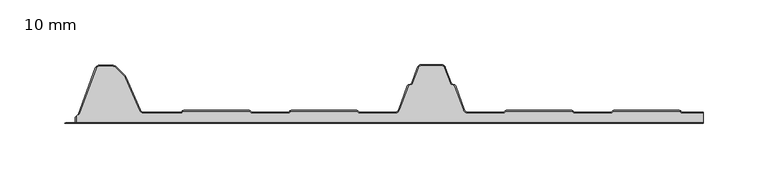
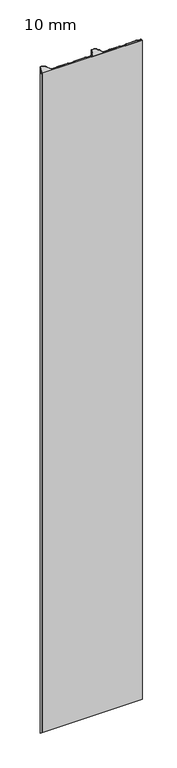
"""IFC4 building model written with IfcOpenShell, lengths in millimetres: plate geometry, HIANSA PANEL - H20.F01.009-PANELES DE CUBIERTA SIN TAPAJUNTA - EASY ALU 5GR - Panel de Muro Cortina : 10 mm."""

from ifc_helpers import new_model, si_unit, point, frame_2d, origin, origin_with_axes, place, context, project, spatial, polyline, circle_curve, trimmed, segment, composite_curve, outline, extrude, source, transform, mapped, element, save


def plate_10_mm_17697db5(model_context):
    return source(origin(), model_context, "Body", "SweptSolid", [
        extrude(outline(polyline([(-236.0046623, 0.4999588), (-236.479984, 1.3232401), (-236.479984, 4.6399643), (-236.0046623, 5.4632456), (-236.0046623, 0.4999588)])), origin_with_axes(), (0.0, 0.0, 1.0), 3390.8509027),
        extrude(outline(polyline([(-244.8927644, 0.0), (-244.026739, 0.5), (249.9999998, 0.5), (249.9999998, 0.0), (-244.8927644, 0.0)])), origin_with_axes(), (0.0, 0.0, 1.0), 3390.8509027),
        extrude(outline(composite_curve([segment(polyline([(-234.1370886, 6.794297), (-220.9862023, 42.9260604)]), True, "CONTINUOUS"), segment(trimmed(circle_curve(frame_2d((-218.1671244, 41.9)), 3.0), [point((-220.9862023, 42.9260604))], [point((-218.1671244, 44.9))], False, "CARTESIAN"), True, "CONTINUOUS"), segment(polyline([(-218.1671244, 44.9), (-208.1823564, 44.9)]), True, "CONTINUOUS"), segment(trimmed(circle_curve(frame_2d((-208.1823564, 39.9)), 5.0), [point((-208.1823564, 44.9))], [point((-204.6468225, 43.4355339))], False, "CARTESIAN"), True, "CONTINUOUS"), segment(polyline([(-204.6468225, 43.4355339), (-197.9600416, 36.7487529)]), True, "CONTINUOUS"), segment(trimmed(circle_curve(frame_2d((-201.4955755, 33.213219)), 5.0), [point((-197.9600416, 36.7487529))], [point((-196.9079185, 35.2015359))], False, "CARTESIAN"), True, "CONTINUOUS"), segment(polyline([(-196.9079185, 35.2015359), (-186.1184879, 10.3070099)]), True, "CONTINUOUS"), segment(trimmed(circle_curve(frame_2d((-183.3658937, 11.5)), 3.0), [point((-186.1184879, 10.3070099))], [point((-183.3658937, 8.5))], True, "CARTESIAN"), True, "CONTINUOUS"), segment(polyline([(-183.3658937, 8.5), (-155.5009808, 8.5)]), True, "CONTINUOUS"), segment(trimmed(circle_curve(frame_2d((-155.5009808, 10.5)), 2.0), [point((-155.5009808, 8.5))], [point((-154.270989, 8.9229394))], True, "CARTESIAN"), True, "CONTINUOUS"), segment(polyline([(-154.270989, 8.9229394), (-153.6196411, 9.5404749)]), True, "CONTINUOUS"), segment(trimmed(circle_curve(frame_2d((-152.3441266, 8.0)), 2.0), [point((-153.6196411, 9.5404749))], [point((-152.3441266, 10.0))], False, "CARTESIAN"), True, "CONTINUOUS"), segment(polyline([(-152.3441266, 10.0), (-102.3428932, 10.0)]), True, "CONTINUOUS"), segment(trimmed(circle_curve(frame_2d((-102.3428932, 8.0)), 2.0), [point((-102.3428932, 10.0))], [point((-101.0673787, 9.5404749))], False, "CARTESIAN"), True, "CONTINUOUS"), segment(polyline([(-101.0673787, 9.5404749), (-100.4160308, 8.9229394)]), True, "CONTINUOUS"), segment(trimmed(circle_curve(frame_2d((-99.1860389, 10.5)), 2.0), [point((-100.4160308, 8.9229394))], [point((-99.1860389, 8.5))], True, "CARTESIAN"), True, "CONTINUOUS"), segment(polyline([(-99.1860389, 8.5), (-72.1676475, 8.5)]), True, "CONTINUOUS"), segment(trimmed(circle_curve(frame_2d((-72.1676475, 10.5)), 2.0), [point((-72.1676475, 8.5))], [point((-70.9376556, 8.9229394))], True, "CARTESIAN"), True, "CONTINUOUS"), segment(polyline([(-70.9376556, 8.9229394), (-70.2863077, 9.5404749)]), True, "CONTINUOUS"), segment(trimmed(circle_curve(frame_2d((-69.0107932, 8.0)), 2.0), [point((-70.2863077, 9.5404749))], [point((-69.0107932, 10.0))], False, "CARTESIAN"), True, "CONTINUOUS"), segment(polyline([(-69.0107932, 10.0), (-19.0095599, 10.0)]), True, "CONTINUOUS"), segment(trimmed(circle_curve(frame_2d((-19.0095599, 8.0)), 2.0), [point((-19.0095599, 10.0))], [point((-17.7340454, 9.5404749))], False, "CARTESIAN"), True, "CONTINUOUS"), segment(polyline([(-17.7340454, 9.5404749), (-17.0826975, 8.9229394)]), True, "CONTINUOUS"), segment(trimmed(circle_curve(frame_2d((-15.8527056, 10.5)), 2.0), [point((-17.0826975, 8.9229394))], [point((-15.8527056, 8.5))], True, "CARTESIAN"), True, "CONTINUOUS"), segment(polyline([(-15.8527056, 8.5), (11.1656855, 8.5)]), True, "CONTINUOUS"), segment(trimmed(circle_curve(frame_2d((11.1656855, 11.5)), 3.0), [point((11.1656855, 8.5))], [point((13.9847633, 10.4739395))], True, "CARTESIAN"), True, "CONTINUOUS"), segment(polyline([(13.9847633, 10.4739395), (20.7029921, 28.9321192)]), True, "CONTINUOUS"), segment(trimmed(circle_curve(frame_2d((22.2065002, 28.3848869)), 1.6), [point((20.7029921, 28.9321192))], [point((21.659268, 29.8883951))], False, "CARTESIAN"), True, "CONTINUOUS"), segment(polyline([(21.659268, 29.8883951), (23.5053318, 30.5603074)]), True, "CONTINUOUS"), segment(trimmed(circle_curve(frame_2d((23.1633117, 31.5)), 1.0), [point((23.5053318, 30.5603074))], [point((24.1030043, 31.1579799))], True, "CARTESIAN"), True, "CONTINUOUS"), segment(polyline([(24.1030043, 31.1579799), (28.4609265, 43.1312725)]), True, "CONTINUOUS"), segment(trimmed(circle_curve(frame_2d((31.8438199, 41.9)), 3.6), [point((28.4609265, 43.1312725))], [point((31.8438199, 45.5))], False, "CARTESIAN"), True, "CONTINUOUS"), segment(polyline([(31.8438199, 45.5), (46.8024936, 45.5)]), True, "CONTINUOUS"), segment(trimmed(circle_curve(frame_2d((46.8024936, 41.9)), 3.6), [point((46.8024936, 45.5))], [point((50.1853871, 43.1312725))], False, "CARTESIAN"), True, "CONTINUOUS"), segment(polyline([(50.1853871, 43.1312725), (54.5433092, 31.1579799)]), True, "CONTINUOUS"), segment(trimmed(circle_curve(frame_2d((55.4830018, 31.5)), 1.0), [point((54.5433092, 31.1579799))], [point((55.1409817, 30.5603074))], True, "CARTESIAN"), True, "CONTINUOUS"), segment(polyline([(55.1409817, 30.5603074), (56.9870455, 29.8883951)]), True, "CONTINUOUS"), segment(trimmed(circle_curve(frame_2d((56.4398133, 28.3848869)), 1.6), [point((56.9870455, 29.8883951))], [point((57.9433215, 28.9321192))], False, "CARTESIAN"), True, "CONTINUOUS"), segment(polyline([(57.9433215, 28.9321192), (64.6615502, 10.4739395)]), True, "CONTINUOUS"), segment(trimmed(circle_curve(frame_2d((67.4806281, 11.5)), 3.0), [point((64.6615502, 10.4739395))], [point((67.4806281, 8.5))], True, "CARTESIAN"), True, "CONTINUOUS"), segment(polyline([(67.4806281, 8.5), (94.4990192, 8.5)]), True, "CONTINUOUS"), segment(trimmed(circle_curve(frame_2d((94.4990192, 10.5)), 2.0), [point((94.4990192, 8.5))], [point((95.729011, 8.9229394))], True, "CARTESIAN"), True, "CONTINUOUS"), segment(polyline([(95.729011, 8.9229394), (96.3803589, 9.5404749)]), True, "CONTINUOUS"), segment(trimmed(circle_curve(frame_2d((97.6558734, 8.0)), 2.0), [point((96.3803589, 9.5404749))], [point((97.6558734, 10.0))], False, "CARTESIAN"), True, "CONTINUOUS"), segment(polyline([(97.6558734, 10.0), (147.6571068, 10.0)]), True, "CONTINUOUS"), segment(trimmed(circle_curve(frame_2d((147.6571068, 8.0)), 2.0), [point((147.6571068, 10.0))], [point((148.9326213, 9.5404749))], False, "CARTESIAN"), True, "CONTINUOUS"), segment(polyline([(148.9326213, 9.5404749), (149.5839692, 8.9229394)]), True, "CONTINUOUS"), segment(trimmed(circle_curve(frame_2d((150.8139611, 10.5)), 2.0), [point((149.5839692, 8.9229394))], [point((150.8139611, 8.5))], True, "CARTESIAN"), True, "CONTINUOUS"), segment(polyline([(150.8139611, 8.5), (177.8323525, 8.5)]), True, "CONTINUOUS"), segment(trimmed(circle_curve(frame_2d((177.8323525, 10.5)), 2.0), [point((177.8323525, 8.5))], [point((179.0623444, 8.9229394))], True, "CARTESIAN"), True, "CONTINUOUS"), segment(polyline([(179.0623444, 8.9229394), (179.7136923, 9.5404749)]), True, "CONTINUOUS"), segment(trimmed(circle_curve(frame_2d((180.9892068, 8.0)), 2.0), [point((179.7136923, 9.5404749))], [point((180.9892068, 10.0))], False, "CARTESIAN"), True, "CONTINUOUS"), segment(polyline([(180.9892068, 10.0), (230.9904401, 10.0)]), True, "CONTINUOUS"), segment(trimmed(circle_curve(frame_2d((230.9904401, 8.0)), 2.0), [point((230.9904401, 10.0))], [point((232.2659546, 9.5404749))], False, "CARTESIAN"), True, "CONTINUOUS"), segment(polyline([(232.2659546, 9.5404749), (232.9173025, 8.9229394)]), True, "CONTINUOUS"), segment(trimmed(circle_curve(frame_2d((234.1472944, 10.5)), 2.0), [point((232.9173025, 8.9229394))], [point((234.1472944, 8.5))], True, "CARTESIAN"), True, "CONTINUOUS"), segment(polyline([(234.1472944, 8.5), (249.9999998, 8.5), (249.9999998, 8.0), (234.1472944, 8.0)]), True, "CONTINUOUS"), segment(trimmed(circle_curve(frame_2d((234.1472944, 10.5)), 2.5), [point((234.1472944, 8.0))], [point((232.5898138, 8.54443))], False, "CARTESIAN"), True, "CONTINUOUS"), segment(polyline([(232.5898138, 8.54443), (231.9350126, 9.1652394)]), True, "CONTINUOUS"), segment(trimmed(circle_curve(frame_2d((230.9904401, 8.0)), 1.5), [point((231.9350126, 9.1652394))], [point((230.9904401, 9.5))], True, "CARTESIAN"), True, "CONTINUOUS"), segment(polyline([(230.9904401, 9.5), (180.9892068, 9.5)]), True, "CONTINUOUS"), segment(trimmed(circle_curve(frame_2d((180.9892068, 8.0)), 1.5), [point((180.9892068, 9.5))], [point((180.0446343, 9.1652394))], True, "CARTESIAN"), True, "CONTINUOUS"), segment(polyline([(180.0446343, 9.1652394), (179.3898331, 8.54443)]), True, "CONTINUOUS"), segment(trimmed(circle_curve(frame_2d((177.8323525, 10.5)), 2.5), [point((179.3898331, 8.54443))], [point((177.8323525, 8.0))], False, "CARTESIAN"), True, "CONTINUOUS"), segment(polyline([(177.8323525, 8.0), (150.8139611, 8.0)]), True, "CONTINUOUS"), segment(trimmed(circle_curve(frame_2d((150.8139611, 10.5)), 2.5), [point((150.8139611, 8.0))], [point((149.2564804, 8.54443))], False, "CARTESIAN"), True, "CONTINUOUS"), segment(polyline([(149.2564804, 8.54443), (148.6016792, 9.1652394)]), True, "CONTINUOUS"), segment(trimmed(circle_curve(frame_2d((147.6571068, 8.0)), 1.5), [point((148.6016792, 9.1652394))], [point((147.6571068, 9.5))], True, "CARTESIAN"), True, "CONTINUOUS"), segment(polyline([(147.6571068, 9.5), (97.6558734, 9.5)]), True, "CONTINUOUS"), segment(trimmed(circle_curve(frame_2d((97.6558734, 8.0)), 1.5), [point((97.6558734, 9.5))], [point((96.711301, 9.1652394))], True, "CARTESIAN"), True, "CONTINUOUS"), segment(polyline([(96.711301, 9.1652394), (96.0564998, 8.54443)]), True, "CONTINUOUS"), segment(trimmed(circle_curve(frame_2d((94.4990192, 10.5)), 2.5), [point((96.0564998, 8.54443))], [point((94.4990192, 8.0))], False, "CARTESIAN"), True, "CONTINUOUS"), segment(polyline([(94.4990192, 8.0), (67.4806281, 8.0)]), True, "CONTINUOUS"), segment(trimmed(circle_curve(frame_2d((67.4806281, 11.5)), 3.5), [point((67.4806281, 8.0))], [point((64.1917039, 10.3029294))], False, "CARTESIAN"), True, "CONTINUOUS"), segment(polyline([(64.1917039, 10.3029294), (57.4734752, 28.7611091)]), True, "CONTINUOUS"), segment(trimmed(circle_curve(frame_2d((56.4398133, 28.3848869)), 1.1), [point((57.4734752, 28.7611091))], [point((56.8160355, 29.4185488))], True, "CARTESIAN"), True, "CONTINUOUS"), segment(polyline([(56.8160355, 29.4185488), (54.9699716, 30.0904611)]), True, "CONTINUOUS"), segment(trimmed(circle_curve(frame_2d((55.4830018, 31.5)), 1.5), [point((54.9699716, 30.0904611))], [point((54.0734629, 30.9869698))], False, "CARTESIAN"), True, "CONTINUOUS"), segment(polyline([(54.0734629, 30.9869698), (49.7155408, 42.9602624)]), True, "CONTINUOUS"), segment(trimmed(circle_curve(frame_2d((46.8024936, 41.9)), 3.1), [point((49.7155408, 42.9602624))], [point((46.8024936, 45.0))], True, "CARTESIAN"), True, "CONTINUOUS"), segment(polyline([(46.8024936, 45.0), (31.8438199, 45.0)]), True, "CONTINUOUS"), segment(trimmed(circle_curve(frame_2d((31.8438199, 41.9)), 3.1), [point((31.8438199, 45.0))], [point((28.9307728, 42.9602624))], True, "CARTESIAN"), True, "CONTINUOUS"), segment(polyline([(28.9307728, 42.9602624), (24.5728506, 30.9869698)]), True, "CONTINUOUS"), segment(trimmed(circle_curve(frame_2d((23.1633117, 31.5)), 1.5), [point((24.5728506, 30.9869698))], [point((23.6763419, 30.0904611))], False, "CARTESIAN"), True, "CONTINUOUS"), segment(polyline([(23.6763419, 30.0904611), (21.8302781, 29.4185488)]), True, "CONTINUOUS"), segment(trimmed(circle_curve(frame_2d((22.2065002, 28.3848869)), 1.1), [point((21.8302781, 29.4185488))], [point((21.1728384, 28.7611091))], True, "CARTESIAN"), True, "CONTINUOUS"), segment(polyline([(21.1728384, 28.7611091), (14.4546096, 10.3029294)]), True, "CONTINUOUS"), segment(trimmed(circle_curve(frame_2d((11.1656855, 11.5)), 3.5), [point((14.4546096, 10.3029294))], [point((11.1656855, 8.0))], False, "CARTESIAN"), True, "CONTINUOUS"), segment(polyline([(11.1656855, 8.0), (-15.8527056, 8.0)]), True, "CONTINUOUS"), segment(trimmed(circle_curve(frame_2d((-15.8527056, 10.5)), 2.5), [point((-15.8527056, 8.0))], [point((-17.4101862, 8.54443))], False, "CARTESIAN"), True, "CONTINUOUS"), segment(polyline([(-17.4101862, 8.54443), (-18.0649874, 9.1652394)]), True, "CONTINUOUS"), segment(trimmed(circle_curve(frame_2d((-19.0095599, 8.0)), 1.5), [point((-18.0649874, 9.1652394))], [point((-19.0095599, 9.5))], True, "CARTESIAN"), True, "CONTINUOUS"), segment(polyline([(-19.0095599, 9.5), (-69.0107932, 9.5)]), True, "CONTINUOUS"), segment(trimmed(circle_curve(frame_2d((-69.0107932, 8.0)), 1.5), [point((-69.0107932, 9.5))], [point((-69.9553657, 9.1652394))], True, "CARTESIAN"), True, "CONTINUOUS"), segment(polyline([(-69.9553657, 9.1652394), (-70.6101669, 8.54443)]), True, "CONTINUOUS"), segment(trimmed(circle_curve(frame_2d((-72.1676475, 10.5)), 2.5), [point((-70.6101669, 8.54443))], [point((-72.1676475, 8.0))], False, "CARTESIAN"), True, "CONTINUOUS"), segment(polyline([(-72.1676475, 8.0), (-99.1860389, 8.0)]), True, "CONTINUOUS"), segment(trimmed(circle_curve(frame_2d((-99.1860389, 10.5)), 2.5), [point((-99.1860389, 8.0))], [point((-100.7435196, 8.54443))], False, "CARTESIAN"), True, "CONTINUOUS"), segment(polyline([(-100.7435196, 8.54443), (-101.3983208, 9.1652394)]), True, "CONTINUOUS"), segment(trimmed(circle_curve(frame_2d((-102.3428932, 8.0)), 1.5), [point((-101.3983208, 9.1652394))], [point((-102.3428932, 9.5))], True, "CARTESIAN"), True, "CONTINUOUS"), segment(polyline([(-102.3428932, 9.5), (-152.3441266, 9.5)]), True, "CONTINUOUS"), segment(trimmed(circle_curve(frame_2d((-152.3441266, 8.0)), 1.5), [point((-152.3441266, 9.5))], [point((-153.288699, 9.1652394))], True, "CARTESIAN"), True, "CONTINUOUS"), segment(polyline([(-153.288699, 9.1652394), (-153.9435002, 8.54443)]), True, "CONTINUOUS"), segment(trimmed(circle_curve(frame_2d((-155.5009808, 10.5)), 2.5), [point((-153.9435002, 8.54443))], [point((-155.5009808, 8.0))], False, "CARTESIAN"), True, "CONTINUOUS"), segment(polyline([(-155.5009808, 8.0), (-183.3658937, 8.0)]), True, "CONTINUOUS"), segment(trimmed(circle_curve(frame_2d((-183.3658937, 11.5)), 3.5), [point((-183.3658937, 8.0))], [point((-186.5772536, 10.1081782))], False, "CARTESIAN"), True, "CONTINUOUS"), segment(polyline([(-186.5772536, 10.1081782), (-197.3666842, 35.0027042)]), True, "CONTINUOUS"), segment(trimmed(circle_curve(frame_2d((-201.4955755, 33.213219)), 4.5), [point((-197.3666842, 35.0027042))], [point((-198.3135949, 36.3951995))], True, "CARTESIAN"), True, "CONTINUOUS"), segment(polyline([(-198.3135949, 36.3951995), (-205.0003759, 43.0819805)]), True, "CONTINUOUS"), segment(trimmed(circle_curve(frame_2d((-208.1823564, 39.9)), 4.5), [point((-205.0003759, 43.0819805))], [point((-208.1823564, 44.4))], True, "CARTESIAN"), True, "CONTINUOUS"), segment(polyline([(-208.1823564, 44.4), (-218.1671244, 44.4)]), True, "CONTINUOUS"), segment(trimmed(circle_curve(frame_2d((-218.1671244, 41.9)), 2.5), [point((-218.1671244, 44.4))], [point((-220.516356, 42.7550504))], True, "CARTESIAN"), True, "CONTINUOUS"), segment(polyline([(-220.516356, 42.7550504), (-233.4445023, 7.2352601), (-234.1370886, 6.794297)]), True, "CONTINUOUS")], self_intersect=False)), origin_with_axes(), (0.0, 0.0, 1.0), 3390.8509027),
        extrude(outline(composite_curve([segment(polyline([(-236.0046623, 5.4632456), (-234.1370886, 6.894297), (-233.3059851, 7.4234527), (-220.4223867, 42.8208483)]), True, "CONTINUOUS"), segment(trimmed(circle_curve(frame_2d((-218.1671244, 42.0)), 2.4), [point((-220.4223867, 42.8208483))], [point((-218.1671244, 44.4))], False, "CARTESIAN"), True, "CONTINUOUS"), segment(polyline([(-218.1671244, 44.4), (-208.1823564, 44.4)]), True, "CONTINUOUS"), segment(trimmed(circle_curve(frame_2d((-208.1823564, 40.0)), 4.4), [point((-208.1823564, 44.4))], [point((-205.0710866, 43.1112698))], False, "CARTESIAN"), True, "CONTINUOUS"), segment(polyline([(-205.0710866, 43.1112698), (-198.3843056, 36.4244889)]), True, "CONTINUOUS"), segment(trimmed(circle_curve(frame_2d((-201.4955755, 33.313219)), 4.4), [point((-198.3843056, 36.4244889))], [point((-197.4584374, 35.0629379))], False, "CARTESIAN"), True, "CONTINUOUS"), segment(polyline([(-197.4584374, 35.0629379), (-186.6690067, 10.1684119)]), True, "CONTINUOUS"), segment(trimmed(circle_curve(frame_2d((-183.3658937, 11.6)), 3.6), [point((-186.6690067, 10.1684119))], [point((-183.3658937, 8.0))], True, "CARTESIAN"), True, "CONTINUOUS"), segment(polyline([(-183.3658937, 8.0), (-155.5009808, 8.0)]), True, "CONTINUOUS"), segment(trimmed(circle_curve(frame_2d((-155.5009808, 10.6)), 2.6), [point((-155.5009808, 8.0))], [point((-153.9019914, 8.5498213))], True, "CARTESIAN"), True, "CONTINUOUS"), segment(polyline([(-153.9019914, 8.5498213), (-153.2369867, 9.1783324)]), True, "CONTINUOUS"), segment(trimmed(circle_curve(frame_2d((-152.3441266, 8.1)), 1.4), [point((-153.2369867, 9.1783324))], [point((-152.3441266, 9.5))], False, "CARTESIAN"), True, "CONTINUOUS"), segment(polyline([(-152.3441266, 9.5), (-102.3428932, 9.5)]), True, "CONTINUOUS"), segment(trimmed(circle_curve(frame_2d((-102.3428932, 8.1)), 1.4), [point((-102.3428932, 9.5))], [point((-101.4500331, 9.1783324))], False, "CARTESIAN"), True, "CONTINUOUS"), segment(polyline([(-101.4500331, 9.1783324), (-100.7850284, 8.5498213)]), True, "CONTINUOUS"), segment(trimmed(circle_curve(frame_2d((-99.1860389, 10.6)), 2.6), [point((-100.7850284, 8.5498213))], [point((-99.1860389, 8.0))], True, "CARTESIAN"), True, "CONTINUOUS"), segment(polyline([(-99.1860389, 8.0), (-72.1676475, 8.0)]), True, "CONTINUOUS"), segment(trimmed(circle_curve(frame_2d((-72.1676475, 10.6)), 2.6), [point((-72.1676475, 8.0))], [point((-70.5686581, 8.5498213))], True, "CARTESIAN"), True, "CONTINUOUS"), segment(polyline([(-70.5686581, 8.5498213), (-69.9036534, 9.1783324)]), True, "CONTINUOUS"), segment(trimmed(circle_curve(frame_2d((-69.0107932, 8.1)), 1.4), [point((-69.9036534, 9.1783324))], [point((-69.0107932, 9.5))], False, "CARTESIAN"), True, "CONTINUOUS"), segment(polyline([(-69.0107932, 9.5), (-19.0095599, 9.5)]), True, "CONTINUOUS"), segment(trimmed(circle_curve(frame_2d((-19.0095599, 8.1)), 1.4), [point((-19.0095599, 9.5))], [point((-18.1166997, 9.1783324))], False, "CARTESIAN"), True, "CONTINUOUS"), segment(polyline([(-18.1166997, 9.1783324), (-17.451695, 8.5498213)]), True, "CONTINUOUS"), segment(trimmed(circle_curve(frame_2d((-15.8527056, 10.6)), 2.6), [point((-17.451695, 8.5498213))], [point((-15.8527056, 8.0))], True, "CARTESIAN"), True, "CONTINUOUS"), segment(polyline([(-15.8527056, 8.0), (11.1656855, 8.0)]), True, "CONTINUOUS"), segment(trimmed(circle_curve(frame_2d((11.1656855, 11.6)), 3.6), [point((11.1656855, 8.0))], [point((14.5485789, 10.3687274))], True, "CARTESIAN"), True, "CONTINUOUS"), segment(polyline([(14.5485789, 10.3687274), (21.2668076, 28.8269071)]), True, "CONTINUOUS"), segment(trimmed(circle_curve(frame_2d((22.2065002, 28.4848869)), 1.0), [point((21.2668076, 28.8269071))], [point((21.8644801, 29.4245795))], False, "CARTESIAN"), True, "CONTINUOUS"), segment(polyline([(21.8644801, 29.4245795), (23.7105439, 30.0964918)]), True, "CONTINUOUS"), segment(trimmed(circle_curve(frame_2d((23.1633117, 31.6)), 1.6), [point((23.7105439, 30.0964918))], [point((24.6668199, 31.0527678))], True, "CARTESIAN"), True, "CONTINUOUS"), segment(polyline([(24.6668199, 31.0527678), (29.024742, 43.0260604)]), True, "CONTINUOUS"), segment(trimmed(circle_curve(frame_2d((31.8438199, 42.0)), 3.0), [point((29.024742, 43.0260604))], [point((31.8438199, 45.0))], False, "CARTESIAN"), True, "CONTINUOUS"), segment(polyline([(31.8438199, 45.0), (46.8024936, 45.0)]), True, "CONTINUOUS"), segment(trimmed(circle_curve(frame_2d((46.8024936, 42.0)), 3.0), [point((46.8024936, 45.0))], [point((49.6215715, 43.0260604))], False, "CARTESIAN"), True, "CONTINUOUS"), segment(polyline([(49.6215715, 43.0260604), (53.9794936, 31.0527678)]), True, "CONTINUOUS"), segment(trimmed(circle_curve(frame_2d((55.4830018, 31.6)), 1.6), [point((53.9794936, 31.0527678))], [point((54.9357696, 30.0964918))], True, "CARTESIAN"), True, "CONTINUOUS"), segment(polyline([(54.9357696, 30.0964918), (56.7818335, 29.4245795)]), True, "CONTINUOUS"), segment(trimmed(circle_curve(frame_2d((56.4398133, 28.4848869)), 1.0), [point((56.7818335, 29.4245795))], [point((57.3795059, 28.8269071))], False, "CARTESIAN"), True, "CONTINUOUS"), segment(polyline([(57.3795059, 28.8269071), (64.0977347, 10.3687274)]), True, "CONTINUOUS"), segment(trimmed(circle_curve(frame_2d((67.4806281, 11.6)), 3.6), [point((64.0977347, 10.3687274))], [point((67.4806281, 8.0))], True, "CARTESIAN"), True, "CONTINUOUS"), segment(polyline([(67.4806281, 8.0), (94.4990192, 8.0)]), True, "CONTINUOUS"), segment(trimmed(circle_curve(frame_2d((94.4990192, 10.6)), 2.6), [point((94.4990192, 8.0))], [point((96.0980086, 8.5498213))], True, "CARTESIAN"), True, "CONTINUOUS"), segment(polyline([(96.0980086, 8.5498213), (96.7630133, 9.1783324)]), True, "CONTINUOUS"), segment(trimmed(circle_curve(frame_2d((97.6558734, 8.1)), 1.4), [point((96.7630133, 9.1783324))], [point((97.6558734, 9.5))], False, "CARTESIAN"), True, "CONTINUOUS"), segment(polyline([(97.6558734, 9.5), (147.6571068, 9.5)]), True, "CONTINUOUS"), segment(trimmed(circle_curve(frame_2d((147.6571068, 8.1)), 1.4), [point((147.6571068, 9.5))], [point((148.5499669, 9.1783324))], False, "CARTESIAN"), True, "CONTINUOUS"), segment(polyline([(148.5499669, 9.1783324), (149.2149716, 8.5498213)]), True, "CONTINUOUS"), segment(trimmed(circle_curve(frame_2d((150.8139611, 10.6)), 2.6), [point((149.2149716, 8.5498213))], [point((150.8139611, 8.0))], True, "CARTESIAN"), True, "CONTINUOUS"), segment(polyline([(150.8139611, 8.0), (177.8323525, 8.0)]), True, "CONTINUOUS"), segment(trimmed(circle_curve(frame_2d((177.8323525, 10.6)), 2.6), [point((177.8323525, 8.0))], [point((179.4313419, 8.5498213))], True, "CARTESIAN"), True, "CONTINUOUS"), segment(polyline([(179.4313419, 8.5498213), (180.0963466, 9.1783324)]), True, "CONTINUOUS"), segment(trimmed(circle_curve(frame_2d((180.9892068, 8.1)), 1.4), [point((180.0963466, 9.1783324))], [point((180.9892068, 9.5))], False, "CARTESIAN"), True, "CONTINUOUS"), segment(polyline([(180.9892068, 9.5), (230.9904401, 9.5)]), True, "CONTINUOUS"), segment(trimmed(circle_curve(frame_2d((230.9904401, 8.1)), 1.4), [point((230.9904401, 9.5))], [point((231.8833003, 9.1783324))], False, "CARTESIAN"), True, "CONTINUOUS"), segment(polyline([(231.8833003, 9.1783324), (232.548305, 8.5498213)]), True, "CONTINUOUS"), segment(trimmed(circle_curve(frame_2d((234.1472944, 10.6)), 2.6), [point((232.548305, 8.5498213))], [point((234.1472944, 8.0))], True, "CARTESIAN"), True, "CONTINUOUS"), segment(polyline([(234.1472944, 8.0), (249.9999998, 8.0), (249.9999998, 0.4999588), (-236.0046623, 0.4999588), (-236.0046623, 5.4632456)]), True, "CONTINUOUS")], self_intersect=False)), origin_with_axes(), (0.0, 0.0, 1.0), 3390.8509027),
    ])


if __name__ == "__main__":
    model = new_model("IFC4")
    model_context = context("Model", 3, world=origin())
    ifc_project = project(units=[si_unit("LENGTHUNIT", "METRE", prefix="MILLI")], contexts=[model_context])
    site = spatial("IfcSite", under=ifc_project)
    building = spatial("IfcBuilding", under=site)
    placement = place(None, origin())
    plate_10_mm_shape = plate_10_mm_17697db5(model_context)
    element("IfcPlate", 1, ObjectType="HIANSA PANEL - H20.F01.009-PANELES DE CUBIERTA SIN TAPAJUNTA - EASY ALU 5GR - Panel de Muro Cortina : 10 mm", at=placement, inside=building, context=model_context, shape_type="MappedRepresentation", body=[
        mapped(plate_10_mm_shape, transform((0.0, 0.0, 0.0), x_axis=(1.0, 0.0, 0.0), y_axis=(0.0, 1.0, 0.0), z_axis=(0.0, 0.0, 1.0))),
    ])
    save(model, "model.ifc")
